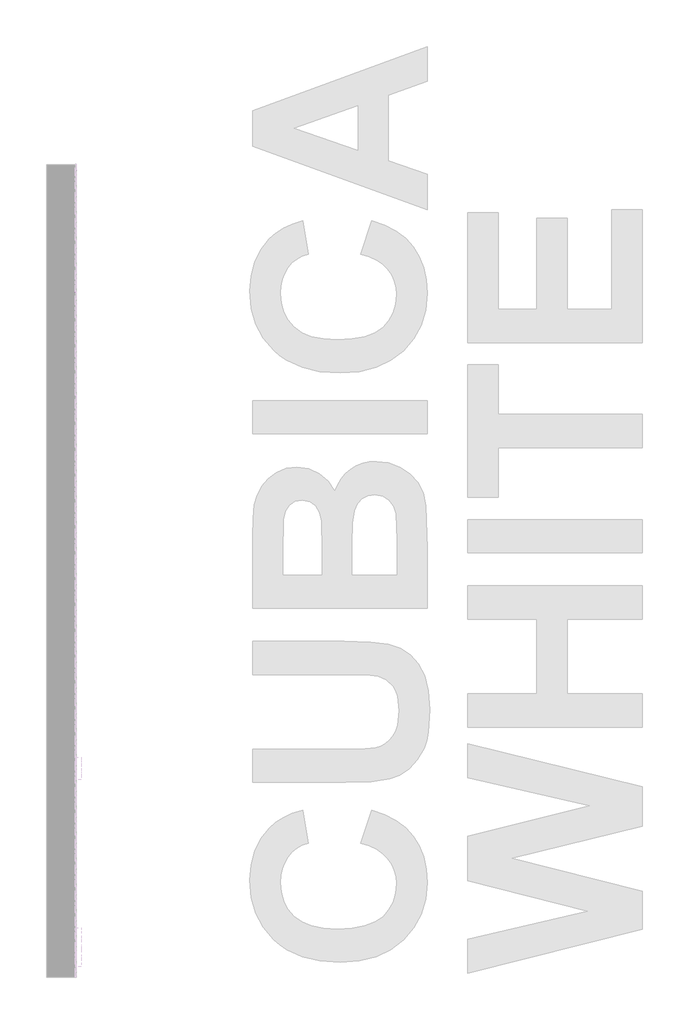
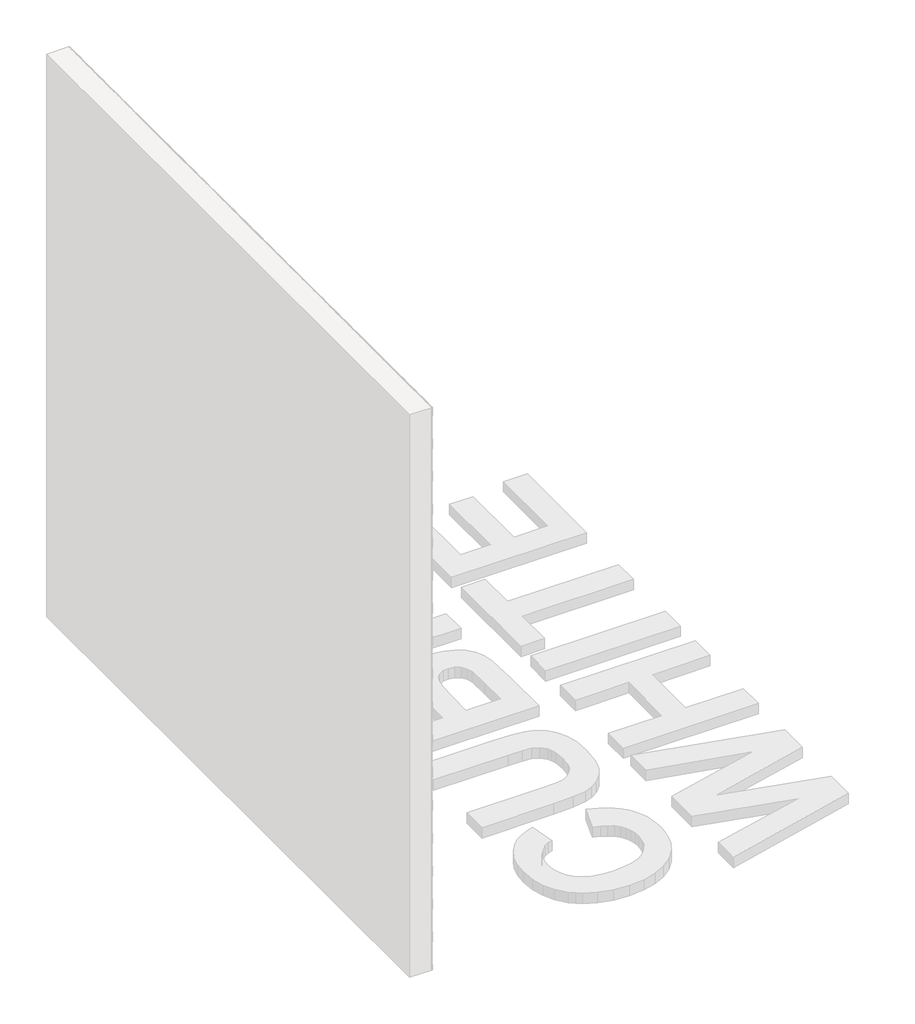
# One storey, part 119 of 121: 144 proxies.
"""IFC4 building model written with IfcOpenShell, lengths in millimetres."""

from ifc_helpers import new_model, si_unit, origin, place, context, project, spatial, transform, mapped, element, save
from components import generic_models_b2b2c5c1, generic_models_9bf73f6f, generic_models_5d175859, generic_models_0bb79e7c

model = new_model("IFC4")

# Units and contexts
model_context = context("Model", 3, world=origin())
ifc_project = project(units=[si_unit("LENGTHUNIT", "METRE", prefix="MILLI")], contexts=[model_context])

# Site, building, storey
site = spatial("IfcSite", under=ifc_project)
building = spatial("IfcBuilding", under=site)
storey = spatial("IfcBuildingStorey", under=building, Name="PORTOBELLO - SHOWROOM", Elevation=0.0)

# Proxies
placement = place(None, origin())
generic_models_shape = generic_models_b2b2c5c1(model_context)
element("IfcBuildingElementProxy", 1, Name="PBSHOP - CUBICA WHITE 4,8X8,3 : CUBICA WHITE - POSIÇÃO 01", ObjectType="PBSHOP - CUBICA WHITE 4,8X8,3 : CUBICA WHITE - POSIÇÃO 01", at=placement, inside=storey, context=model_context, shape_type="MappedRepresentation", body=[
    mapped(generic_models_shape, transform((150369.5341846, 21422.109842, 2012.7881262), x_axis=(0.0, 1.0, 0.0), y_axis=(0.0, 0.0, 1.0), z_axis=(1.0, 0.0, 0.0))),
])
element("IfcBuildingElementProxy", 2, Name="PBSHOP - CUBICA WHITE 4,8X8,3 : CUBICA WHITE - POSIÇÃO 01", ObjectType="PBSHOP - CUBICA WHITE 4,8X8,3 : CUBICA WHITE - POSIÇÃO 01", at=placement, inside=storey, context=model_context, shape_type="MappedRepresentation", body=[
    mapped(generic_models_shape, transform((150369.5341846, 21512.9491113, 2012.7881262), x_axis=(0.0, 1.0, 0.0), y_axis=(0.0, 0.0, 1.0), z_axis=(1.0, 0.0, 0.0))),
])
element("IfcBuildingElementProxy", 3, Name="PBSHOP - CUBICA WHITE 4,8X8,3 : CUBICA WHITE - POSIÇÃO 01", ObjectType="PBSHOP - CUBICA WHITE 4,8X8,3 : CUBICA WHITE - POSIÇÃO 01", at=placement, inside=storey, context=model_context, shape_type="MappedRepresentation", body=[
    mapped(generic_models_shape, transform((150369.5341846, 21603.7883805, 2012.7881262), x_axis=(0.0, 1.0, 0.0), y_axis=(0.0, 0.0, 1.0), z_axis=(1.0, 0.0, 0.0))),
])
element("IfcBuildingElementProxy", 4, Name="PBSHOP - CUBICA WHITE 4,8X8,3 : CUBICA WHITE - POSIÇÃO 01", ObjectType="PBSHOP - CUBICA WHITE 4,8X8,3 : CUBICA WHITE - POSIÇÃO 01", at=placement, inside=storey, context=model_context, shape_type="MappedRepresentation", body=[
    mapped(generic_models_shape, transform((150369.5341846, 21694.6276498, 2012.7881262), x_axis=(0.0, 1.0, 0.0), y_axis=(0.0, 0.0, 1.0), z_axis=(1.0, 0.0, 0.0))),
])
element("IfcBuildingElementProxy", 5, Name="PBSHOP - CUBICA WHITE 4,8X8,3 : CUBICA WHITE - POSIÇÃO 01", ObjectType="PBSHOP - CUBICA WHITE 4,8X8,3 : CUBICA WHITE - POSIÇÃO 01", at=placement, inside=storey, context=model_context, shape_type="MappedRepresentation", body=[
    mapped(generic_models_shape, transform((150369.5341846, 21785.466919, 2012.7881262), x_axis=(0.0, 1.0, 0.0), y_axis=(0.0, 0.0, 1.0), z_axis=(1.0, 0.0, 0.0))),
])
element("IfcBuildingElementProxy", 6, Name="PBSHOP - CUBICA WHITE 4,8X8,3 : CUBICA WHITE - POSIÇÃO 01", ObjectType="PBSHOP - CUBICA WHITE 4,8X8,3 : CUBICA WHITE - POSIÇÃO 01", at=placement, inside=storey, context=model_context, shape_type="MappedRepresentation", body=[
    mapped(generic_models_shape, transform((150369.5341846, 21876.3061883, 2012.7881262), x_axis=(0.0, 1.0, 0.0), y_axis=(0.0, 0.0, 1.0), z_axis=(1.0, 0.0, 0.0))),
])
element("IfcBuildingElementProxy", 7, Name="PBSHOP - CUBICA WHITE 4,8X8,3 : CUBICA WHITE - POSIÇÃO 01", ObjectType="PBSHOP - CUBICA WHITE 4,8X8,3 : CUBICA WHITE - POSIÇÃO 01", at=placement, inside=storey, context=model_context, shape_type="MappedRepresentation", body=[
    mapped(generic_models_shape, transform((150369.5341846, 21967.1454575, 2012.7881262), x_axis=(0.0, 1.0, 0.0), y_axis=(0.0, 0.0, 1.0), z_axis=(1.0, 0.0, 0.0))),
])
element("IfcBuildingElementProxy", 8, Name="PBSHOP - CUBICA WHITE 4,8X8,3 : CUBICA WHITE - POSIÇÃO 01", ObjectType="PBSHOP - CUBICA WHITE 4,8X8,3 : CUBICA WHITE - POSIÇÃO 01", at=placement, inside=storey, context=model_context, shape_type="MappedRepresentation", body=[
    mapped(generic_models_shape, transform((150369.5341846, 21013.3331304, 2091.7227645), x_axis=(0.0, 1.0, 0.0), y_axis=(0.0, 0.0, 1.0), z_axis=(1.0, 0.0, 0.0))),
])
element("IfcBuildingElementProxy", 9, Name="PBSHOP - CUBICA WHITE 4,8X8,3 : CUBICA WHITE - POSIÇÃO 01", ObjectType="PBSHOP - CUBICA WHITE 4,8X8,3 : CUBICA WHITE - POSIÇÃO 01", at=placement, inside=storey, context=model_context, shape_type="MappedRepresentation", body=[
    mapped(generic_models_shape, transform((150369.5341846, 21104.1723997, 2091.7227645), x_axis=(0.0, 1.0, 0.0), y_axis=(0.0, 0.0, 1.0), z_axis=(1.0, 0.0, 0.0))),
])
element("IfcBuildingElementProxy", 10, Name="PBSHOP - CUBICA WHITE 4,8X8,3 : CUBICA WHITE - POSIÇÃO 01", ObjectType="PBSHOP - CUBICA WHITE 4,8X8,3 : CUBICA WHITE - POSIÇÃO 01", at=placement, inside=storey, context=model_context, shape_type="MappedRepresentation", body=[
    mapped(generic_models_shape, transform((150369.5341846, 21195.0116689, 2091.7227645), x_axis=(0.0, 1.0, 0.0), y_axis=(0.0, 0.0, 1.0), z_axis=(1.0, 0.0, 0.0))),
])
element("IfcBuildingElementProxy", 11, Name="PBSHOP - CUBICA WHITE 4,8X8,3 : CUBICA WHITE - POSIÇÃO 01", ObjectType="PBSHOP - CUBICA WHITE 4,8X8,3 : CUBICA WHITE - POSIÇÃO 01", at=placement, inside=storey, context=model_context, shape_type="MappedRepresentation", body=[
    mapped(generic_models_shape, transform((150369.5341846, 21285.8509382, 2091.7227645), x_axis=(0.0, 1.0, 0.0), y_axis=(0.0, 0.0, 1.0), z_axis=(1.0, 0.0, 0.0))),
])
element("IfcBuildingElementProxy", 12, Name="PBSHOP - CUBICA WHITE 4,8X8,3 : CUBICA WHITE - POSIÇÃO 01", ObjectType="PBSHOP - CUBICA WHITE 4,8X8,3 : CUBICA WHITE - POSIÇÃO 01", at=placement, inside=storey, context=model_context, shape_type="MappedRepresentation", body=[
    mapped(generic_models_shape, transform((150369.5341846, 21376.6902074, 2091.7227645), x_axis=(0.0, 1.0, 0.0), y_axis=(0.0, 0.0, 1.0), z_axis=(1.0, 0.0, 0.0))),
])
element("IfcBuildingElementProxy", 13, Name="PBSHOP - CUBICA WHITE 4,8X8,3 : CUBICA WHITE - POSIÇÃO 01", ObjectType="PBSHOP - CUBICA WHITE 4,8X8,3 : CUBICA WHITE - POSIÇÃO 01", at=placement, inside=storey, context=model_context, shape_type="MappedRepresentation", body=[
    mapped(generic_models_shape, transform((150369.5341846, 21467.5294767, 2091.7227645), x_axis=(0.0, 1.0, 0.0), y_axis=(0.0, 0.0, 1.0), z_axis=(1.0, 0.0, 0.0))),
])
element("IfcBuildingElementProxy", 14, Name="PBSHOP - CUBICA WHITE 4,8X8,3 : CUBICA WHITE - POSIÇÃO 01", ObjectType="PBSHOP - CUBICA WHITE 4,8X8,3 : CUBICA WHITE - POSIÇÃO 01", at=placement, inside=storey, context=model_context, shape_type="MappedRepresentation", body=[
    mapped(generic_models_shape, transform((150369.5341846, 21558.3687459, 2091.7227645), x_axis=(0.0, 1.0, 0.0), y_axis=(0.0, 0.0, 1.0), z_axis=(1.0, 0.0, 0.0))),
])
element("IfcBuildingElementProxy", 15, Name="PBSHOP - CUBICA WHITE 4,8X8,3 : CUBICA WHITE - POSIÇÃO 01", ObjectType="PBSHOP - CUBICA WHITE 4,8X8,3 : CUBICA WHITE - POSIÇÃO 01", at=placement, inside=storey, context=model_context, shape_type="MappedRepresentation", body=[
    mapped(generic_models_shape, transform((150369.5341846, 21649.2080152, 2091.7227645), x_axis=(0.0, 1.0, 0.0), y_axis=(0.0, 0.0, 1.0), z_axis=(1.0, 0.0, 0.0))),
])
element("IfcBuildingElementProxy", 16, Name="PBSHOP - CUBICA WHITE 4,8X8,3 : CUBICA WHITE - POSIÇÃO 01", ObjectType="PBSHOP - CUBICA WHITE 4,8X8,3 : CUBICA WHITE - POSIÇÃO 01", at=placement, inside=storey, context=model_context, shape_type="MappedRepresentation", body=[
    mapped(generic_models_shape, transform((150369.5341846, 21740.0472844, 2091.7227645), x_axis=(0.0, 1.0, 0.0), y_axis=(0.0, 0.0, 1.0), z_axis=(1.0, 0.0, 0.0))),
])
element("IfcBuildingElementProxy", 17, Name="PBSHOP - CUBICA WHITE 4,8X8,3 : CUBICA WHITE - POSIÇÃO 01", ObjectType="PBSHOP - CUBICA WHITE 4,8X8,3 : CUBICA WHITE - POSIÇÃO 01", at=placement, inside=storey, context=model_context, shape_type="MappedRepresentation", body=[
    mapped(generic_models_shape, transform((150369.5341846, 21830.8865536, 2091.7227645), x_axis=(0.0, 1.0, 0.0), y_axis=(0.0, 0.0, 1.0), z_axis=(1.0, 0.0, 0.0))),
])
element("IfcBuildingElementProxy", 18, Name="PBSHOP - CUBICA WHITE 4,8X8,3 : CUBICA WHITE - POSIÇÃO 01", ObjectType="PBSHOP - CUBICA WHITE 4,8X8,3 : CUBICA WHITE - POSIÇÃO 01", at=placement, inside=storey, context=model_context, shape_type="MappedRepresentation", body=[
    mapped(generic_models_shape, transform((150369.5341846, 21921.7258229, 2091.7227645), x_axis=(0.0, 1.0, 0.0), y_axis=(0.0, 0.0, 1.0), z_axis=(1.0, 0.0, 0.0))),
])
element("IfcBuildingElementProxy", 19, Name="PBSHOP - CUBICA WHITE 4,8X8,3 : CUBICA WHITE - POSIÇÃO 01", ObjectType="PBSHOP - CUBICA WHITE 4,8X8,3 : CUBICA WHITE - POSIÇÃO 01", at=placement, inside=storey, context=model_context, shape_type="MappedRepresentation", body=[
    mapped(generic_models_shape, transform((150369.5341846, 21058.7527651, 2170.6574029), x_axis=(0.0, 1.0, 0.0), y_axis=(0.0, 0.0, 1.0), z_axis=(1.0, 0.0, 0.0))),
])
element("IfcBuildingElementProxy", 20, Name="PBSHOP - CUBICA WHITE 4,8X8,3 : CUBICA WHITE - POSIÇÃO 01", ObjectType="PBSHOP - CUBICA WHITE 4,8X8,3 : CUBICA WHITE - POSIÇÃO 01", at=placement, inside=storey, context=model_context, shape_type="MappedRepresentation", body=[
    mapped(generic_models_shape, transform((150369.5341846, 21149.5920343, 2170.6574029), x_axis=(0.0, 1.0, 0.0), y_axis=(0.0, 0.0, 1.0), z_axis=(1.0, 0.0, 0.0))),
])
element("IfcBuildingElementProxy", 21, Name="PBSHOP - CUBICA WHITE 4,8X8,3 : CUBICA WHITE - POSIÇÃO 01", ObjectType="PBSHOP - CUBICA WHITE 4,8X8,3 : CUBICA WHITE - POSIÇÃO 01", at=placement, inside=storey, context=model_context, shape_type="MappedRepresentation", body=[
    mapped(generic_models_shape, transform((150369.5341846, 21240.4313036, 2170.6574029), x_axis=(0.0, 1.0, 0.0), y_axis=(0.0, 0.0, 1.0), z_axis=(1.0, 0.0, 0.0))),
])
element("IfcBuildingElementProxy", 22, Name="PBSHOP - CUBICA WHITE 4,8X8,3 : CUBICA WHITE - POSIÇÃO 01", ObjectType="PBSHOP - CUBICA WHITE 4,8X8,3 : CUBICA WHITE - POSIÇÃO 01", at=placement, inside=storey, context=model_context, shape_type="MappedRepresentation", body=[
    mapped(generic_models_shape, transform((150369.5341846, 21331.2705728, 2170.6574029), x_axis=(0.0, 1.0, 0.0), y_axis=(0.0, 0.0, 1.0), z_axis=(1.0, 0.0, 0.0))),
])
element("IfcBuildingElementProxy", 23, Name="PBSHOP - CUBICA WHITE 4,8X8,3 : CUBICA WHITE - POSIÇÃO 01", ObjectType="PBSHOP - CUBICA WHITE 4,8X8,3 : CUBICA WHITE - POSIÇÃO 01", at=placement, inside=storey, context=model_context, shape_type="MappedRepresentation", body=[
    mapped(generic_models_shape, transform((150369.5341846, 21422.109842, 2170.6574029), x_axis=(0.0, 1.0, 0.0), y_axis=(0.0, 0.0, 1.0), z_axis=(1.0, 0.0, 0.0))),
])
element("IfcBuildingElementProxy", 24, Name="PBSHOP - CUBICA WHITE 4,8X8,3 : CUBICA WHITE - POSIÇÃO 01", ObjectType="PBSHOP - CUBICA WHITE 4,8X8,3 : CUBICA WHITE - POSIÇÃO 01", at=placement, inside=storey, context=model_context, shape_type="MappedRepresentation", body=[
    mapped(generic_models_shape, transform((150369.5341846, 21512.9491113, 2170.6574029), x_axis=(0.0, 1.0, 0.0), y_axis=(0.0, 0.0, 1.0), z_axis=(1.0, 0.0, 0.0))),
])
element("IfcBuildingElementProxy", 25, Name="PBSHOP - CUBICA WHITE 4,8X8,3 : CUBICA WHITE - POSIÇÃO 01", ObjectType="PBSHOP - CUBICA WHITE 4,8X8,3 : CUBICA WHITE - POSIÇÃO 01", at=placement, inside=storey, context=model_context, shape_type="MappedRepresentation", body=[
    mapped(generic_models_shape, transform((150369.5341846, 21603.7883805, 2170.6574029), x_axis=(0.0, 1.0, 0.0), y_axis=(0.0, 0.0, 1.0), z_axis=(1.0, 0.0, 0.0))),
])
element("IfcBuildingElementProxy", 26, Name="PBSHOP - CUBICA WHITE 4,8X8,3 : CUBICA WHITE - POSIÇÃO 01", ObjectType="PBSHOP - CUBICA WHITE 4,8X8,3 : CUBICA WHITE - POSIÇÃO 01", at=placement, inside=storey, context=model_context, shape_type="MappedRepresentation", body=[
    mapped(generic_models_shape, transform((150369.5341846, 21694.6276498, 2170.6574029), x_axis=(0.0, 1.0, 0.0), y_axis=(0.0, 0.0, 1.0), z_axis=(1.0, 0.0, 0.0))),
])
element("IfcBuildingElementProxy", 27, Name="PBSHOP - CUBICA WHITE 4,8X8,3 : CUBICA WHITE - POSIÇÃO 01", ObjectType="PBSHOP - CUBICA WHITE 4,8X8,3 : CUBICA WHITE - POSIÇÃO 01", at=placement, inside=storey, context=model_context, shape_type="MappedRepresentation", body=[
    mapped(generic_models_shape, transform((150369.5341846, 21785.466919, 2170.6574029), x_axis=(0.0, 1.0, 0.0), y_axis=(0.0, 0.0, 1.0), z_axis=(1.0, 0.0, 0.0))),
])
element("IfcBuildingElementProxy", 28, Name="PBSHOP - CUBICA WHITE 4,8X8,3 : CUBICA WHITE - POSIÇÃO 01", ObjectType="PBSHOP - CUBICA WHITE 4,8X8,3 : CUBICA WHITE - POSIÇÃO 01", at=placement, inside=storey, context=model_context, shape_type="MappedRepresentation", body=[
    mapped(generic_models_shape, transform((150369.5341846, 21876.3061883, 2170.6574029), x_axis=(0.0, 1.0, 0.0), y_axis=(0.0, 0.0, 1.0), z_axis=(1.0, 0.0, 0.0))),
])
element("IfcBuildingElementProxy", 29, Name="PBSHOP - CUBICA WHITE 4,8X8,3 : CUBICA WHITE - POSIÇÃO 01", ObjectType="PBSHOP - CUBICA WHITE 4,8X8,3 : CUBICA WHITE - POSIÇÃO 01", at=placement, inside=storey, context=model_context, shape_type="MappedRepresentation", body=[
    mapped(generic_models_shape, transform((150369.5341846, 21967.1454575, 2170.6574029), x_axis=(0.0, 1.0, 0.0), y_axis=(0.0, 0.0, 1.0), z_axis=(1.0, 0.0, 0.0))),
])
element("IfcBuildingElementProxy", 30, Name="PBSHOP - CUBICA WHITE 4,8X8,3 : CUBICA WHITE - POSIÇÃO 01", ObjectType="PBSHOP - CUBICA WHITE 4,8X8,3 : CUBICA WHITE - POSIÇÃO 01", at=placement, inside=storey, context=model_context, shape_type="MappedRepresentation", body=[
    mapped(generic_models_shape, transform((150369.5341846, 21013.3331304, 2249.5920413), x_axis=(0.0, 1.0, 0.0), y_axis=(0.0, 0.0, 1.0), z_axis=(1.0, 0.0, 0.0))),
])
element("IfcBuildingElementProxy", 31, Name="PBSHOP - CUBICA WHITE 4,8X8,3 : CUBICA WHITE - POSIÇÃO 01", ObjectType="PBSHOP - CUBICA WHITE 4,8X8,3 : CUBICA WHITE - POSIÇÃO 01", at=placement, inside=storey, context=model_context, shape_type="MappedRepresentation", body=[
    mapped(generic_models_shape, transform((150369.5341846, 21104.1723997, 2249.5920413), x_axis=(0.0, 1.0, 0.0), y_axis=(0.0, 0.0, 1.0), z_axis=(1.0, 0.0, 0.0))),
])
element("IfcBuildingElementProxy", 32, Name="PBSHOP - CUBICA WHITE 4,8X8,3 : CUBICA WHITE - POSIÇÃO 01", ObjectType="PBSHOP - CUBICA WHITE 4,8X8,3 : CUBICA WHITE - POSIÇÃO 01", at=placement, inside=storey, context=model_context, shape_type="MappedRepresentation", body=[
    mapped(generic_models_shape, transform((150369.5341846, 21195.0116689, 2249.5920413), x_axis=(0.0, 1.0, 0.0), y_axis=(0.0, 0.0, 1.0), z_axis=(1.0, 0.0, 0.0))),
])
element("IfcBuildingElementProxy", 33, Name="PBSHOP - CUBICA WHITE 4,8X8,3 : CUBICA WHITE - POSIÇÃO 01", ObjectType="PBSHOP - CUBICA WHITE 4,8X8,3 : CUBICA WHITE - POSIÇÃO 01", at=placement, inside=storey, context=model_context, shape_type="MappedRepresentation", body=[
    mapped(generic_models_shape, transform((150369.5341846, 21285.8509382, 2249.5920413), x_axis=(0.0, 1.0, 0.0), y_axis=(0.0, 0.0, 1.0), z_axis=(1.0, 0.0, 0.0))),
])
element("IfcBuildingElementProxy", 34, Name="PBSHOP - CUBICA WHITE 4,8X8,3 : CUBICA WHITE - POSIÇÃO 01", ObjectType="PBSHOP - CUBICA WHITE 4,8X8,3 : CUBICA WHITE - POSIÇÃO 01", at=placement, inside=storey, context=model_context, shape_type="MappedRepresentation", body=[
    mapped(generic_models_shape, transform((150369.5341846, 21376.6902074, 2249.5920413), x_axis=(0.0, 1.0, 0.0), y_axis=(0.0, 0.0, 1.0), z_axis=(1.0, 0.0, 0.0))),
])
element("IfcBuildingElementProxy", 35, Name="PBSHOP - CUBICA WHITE 4,8X8,3 : CUBICA WHITE - POSIÇÃO 01", ObjectType="PBSHOP - CUBICA WHITE 4,8X8,3 : CUBICA WHITE - POSIÇÃO 01", at=placement, inside=storey, context=model_context, shape_type="MappedRepresentation", body=[
    mapped(generic_models_shape, transform((150369.5341846, 21467.5294767, 2249.5920413), x_axis=(0.0, 1.0, 0.0), y_axis=(0.0, 0.0, 1.0), z_axis=(1.0, 0.0, 0.0))),
])
element("IfcBuildingElementProxy", 36, Name="PBSHOP - CUBICA WHITE 4,8X8,3 : CUBICA WHITE - POSIÇÃO 01", ObjectType="PBSHOP - CUBICA WHITE 4,8X8,3 : CUBICA WHITE - POSIÇÃO 01", at=placement, inside=storey, context=model_context, shape_type="MappedRepresentation", body=[
    mapped(generic_models_shape, transform((150369.5341846, 21558.3687459, 2249.5920413), x_axis=(0.0, 1.0, 0.0), y_axis=(0.0, 0.0, 1.0), z_axis=(1.0, 0.0, 0.0))),
])
element("IfcBuildingElementProxy", 37, Name="PBSHOP - CUBICA WHITE 4,8X8,3 : CUBICA WHITE - POSIÇÃO 01", ObjectType="PBSHOP - CUBICA WHITE 4,8X8,3 : CUBICA WHITE - POSIÇÃO 01", at=placement, inside=storey, context=model_context, shape_type="MappedRepresentation", body=[
    mapped(generic_models_shape, transform((150369.5341846, 21649.2080152, 2249.5920413), x_axis=(0.0, 1.0, 0.0), y_axis=(0.0, 0.0, 1.0), z_axis=(1.0, 0.0, 0.0))),
])
element("IfcBuildingElementProxy", 38, Name="PBSHOP - CUBICA WHITE 4,8X8,3 : CUBICA WHITE - POSIÇÃO 01", ObjectType="PBSHOP - CUBICA WHITE 4,8X8,3 : CUBICA WHITE - POSIÇÃO 01", at=placement, inside=storey, context=model_context, shape_type="MappedRepresentation", body=[
    mapped(generic_models_shape, transform((150369.5341846, 21740.0472844, 2249.5920413), x_axis=(0.0, 1.0, 0.0), y_axis=(0.0, 0.0, 1.0), z_axis=(1.0, 0.0, 0.0))),
])
element("IfcBuildingElementProxy", 39, Name="PBSHOP - CUBICA WHITE 4,8X8,3 : CUBICA WHITE - POSIÇÃO 01", ObjectType="PBSHOP - CUBICA WHITE 4,8X8,3 : CUBICA WHITE - POSIÇÃO 01", at=placement, inside=storey, context=model_context, shape_type="MappedRepresentation", body=[
    mapped(generic_models_shape, transform((150369.5341846, 21830.8865536, 2249.5920413), x_axis=(0.0, 1.0, 0.0), y_axis=(0.0, 0.0, 1.0), z_axis=(1.0, 0.0, 0.0))),
])
element("IfcBuildingElementProxy", 40, Name="PBSHOP - CUBICA WHITE 4,8X8,3 : CUBICA WHITE - POSIÇÃO 01", ObjectType="PBSHOP - CUBICA WHITE 4,8X8,3 : CUBICA WHITE - POSIÇÃO 01", at=placement, inside=storey, context=model_context, shape_type="MappedRepresentation", body=[
    mapped(generic_models_shape, transform((150369.5341846, 21921.7258229, 2249.5920413), x_axis=(0.0, 1.0, 0.0), y_axis=(0.0, 0.0, 1.0), z_axis=(1.0, 0.0, 0.0))),
])
element("IfcBuildingElementProxy", 41, Name="PBSHOP - CUBICA WHITE 4,8X8,3 : CUBICA WHITE - POSIÇÃO 01", ObjectType="PBSHOP - CUBICA WHITE 4,8X8,3 : CUBICA WHITE - POSIÇÃO 01", at=placement, inside=storey, context=model_context, shape_type="MappedRepresentation", body=[
    mapped(generic_models_shape, transform((150369.5341846, 21058.7527651, 2328.5266797), x_axis=(0.0, 1.0, 0.0), y_axis=(0.0, 0.0, 1.0), z_axis=(1.0, 0.0, 0.0))),
])
element("IfcBuildingElementProxy", 42, Name="PBSHOP - CUBICA WHITE 4,8X8,3 : CUBICA WHITE - POSIÇÃO 01", ObjectType="PBSHOP - CUBICA WHITE 4,8X8,3 : CUBICA WHITE - POSIÇÃO 01", at=placement, inside=storey, context=model_context, shape_type="MappedRepresentation", body=[
    mapped(generic_models_shape, transform((150369.5341846, 21149.5920343, 2328.5266797), x_axis=(0.0, 1.0, 0.0), y_axis=(0.0, 0.0, 1.0), z_axis=(1.0, 0.0, 0.0))),
])
element("IfcBuildingElementProxy", 43, Name="PBSHOP - CUBICA WHITE 4,8X8,3 : CUBICA WHITE - POSIÇÃO 01", ObjectType="PBSHOP - CUBICA WHITE 4,8X8,3 : CUBICA WHITE - POSIÇÃO 01", at=placement, inside=storey, context=model_context, shape_type="MappedRepresentation", body=[
    mapped(generic_models_shape, transform((150369.5341846, 21240.4313036, 2328.5266797), x_axis=(0.0, 1.0, 0.0), y_axis=(0.0, 0.0, 1.0), z_axis=(1.0, 0.0, 0.0))),
])
element("IfcBuildingElementProxy", 44, Name="PBSHOP - CUBICA WHITE 4,8X8,3 : CUBICA WHITE - POSIÇÃO 01", ObjectType="PBSHOP - CUBICA WHITE 4,8X8,3 : CUBICA WHITE - POSIÇÃO 01", at=placement, inside=storey, context=model_context, shape_type="MappedRepresentation", body=[
    mapped(generic_models_shape, transform((150369.5341846, 21331.2705728, 2328.5266797), x_axis=(0.0, 1.0, 0.0), y_axis=(0.0, 0.0, 1.0), z_axis=(1.0, 0.0, 0.0))),
])
element("IfcBuildingElementProxy", 45, Name="PBSHOP - CUBICA WHITE 4,8X8,3 : CUBICA WHITE - POSIÇÃO 01", ObjectType="PBSHOP - CUBICA WHITE 4,8X8,3 : CUBICA WHITE - POSIÇÃO 01", at=placement, inside=storey, context=model_context, shape_type="MappedRepresentation", body=[
    mapped(generic_models_shape, transform((150369.5341846, 21422.109842, 2328.5266797), x_axis=(0.0, 1.0, 0.0), y_axis=(0.0, 0.0, 1.0), z_axis=(1.0, 0.0, 0.0))),
])
element("IfcBuildingElementProxy", 46, Name="PBSHOP - CUBICA WHITE 4,8X8,3 : CUBICA WHITE - POSIÇÃO 01", ObjectType="PBSHOP - CUBICA WHITE 4,8X8,3 : CUBICA WHITE - POSIÇÃO 01", at=placement, inside=storey, context=model_context, shape_type="MappedRepresentation", body=[
    mapped(generic_models_shape, transform((150369.5341846, 21512.9491113, 2328.5266797), x_axis=(0.0, 1.0, 0.0), y_axis=(0.0, 0.0, 1.0), z_axis=(1.0, 0.0, 0.0))),
])
element("IfcBuildingElementProxy", 47, Name="PBSHOP - CUBICA WHITE 4,8X8,3 : CUBICA WHITE - POSIÇÃO 01", ObjectType="PBSHOP - CUBICA WHITE 4,8X8,3 : CUBICA WHITE - POSIÇÃO 01", at=placement, inside=storey, context=model_context, shape_type="MappedRepresentation", body=[
    mapped(generic_models_shape, transform((150369.5341846, 21603.7883805, 2328.5266797), x_axis=(0.0, 1.0, 0.0), y_axis=(0.0, 0.0, 1.0), z_axis=(1.0, 0.0, 0.0))),
])
element("IfcBuildingElementProxy", 48, Name="PBSHOP - CUBICA WHITE 4,8X8,3 : CUBICA WHITE - POSIÇÃO 01", ObjectType="PBSHOP - CUBICA WHITE 4,8X8,3 : CUBICA WHITE - POSIÇÃO 01", at=placement, inside=storey, context=model_context, shape_type="MappedRepresentation", body=[
    mapped(generic_models_shape, transform((150369.5341846, 21694.6276498, 2328.5266797), x_axis=(0.0, 1.0, 0.0), y_axis=(0.0, 0.0, 1.0), z_axis=(1.0, 0.0, 0.0))),
])
element("IfcBuildingElementProxy", 49, Name="PBSHOP - CUBICA WHITE 4,8X8,3 : CUBICA WHITE - POSIÇÃO 01", ObjectType="PBSHOP - CUBICA WHITE 4,8X8,3 : CUBICA WHITE - POSIÇÃO 01", at=placement, inside=storey, context=model_context, shape_type="MappedRepresentation", body=[
    mapped(generic_models_shape, transform((150369.5341846, 21785.466919, 2328.5266797), x_axis=(0.0, 1.0, 0.0), y_axis=(0.0, 0.0, 1.0), z_axis=(1.0, 0.0, 0.0))),
])
element("IfcBuildingElementProxy", 50, Name="PBSHOP - CUBICA WHITE 4,8X8,3 : CUBICA WHITE - POSIÇÃO 01", ObjectType="PBSHOP - CUBICA WHITE 4,8X8,3 : CUBICA WHITE - POSIÇÃO 01", at=placement, inside=storey, context=model_context, shape_type="MappedRepresentation", body=[
    mapped(generic_models_shape, transform((150369.5341846, 21876.3061883, 2328.5266797), x_axis=(0.0, 1.0, 0.0), y_axis=(0.0, 0.0, 1.0), z_axis=(1.0, 0.0, 0.0))),
])
generic_models_2_shape = generic_models_9bf73f6f(model_context)
element("IfcBuildingElementProxy", 51, Name="PBSHOP - CUBICA WHITE 4,8X8,3 : CUBICA WHITE - POSIÇÃO 03", ObjectType="PBSHOP - CUBICA WHITE 4,8X8,3 : CUBICA WHITE - POSIÇÃO 03", at=placement, inside=storey, context=model_context, shape_type="MappedRepresentation", body=[
    mapped(generic_models_2_shape, transform((150369.5341846, 21036.0451069, 1973.2795966), x_axis=(0.0, 1.0, 0.0), y_axis=(0.0, 0.0, 1.0), z_axis=(1.0, 0.0, 0.0))),
])
element("IfcBuildingElementProxy", 52, Name="PBSHOP - CUBICA WHITE 4,8X8,3 : CUBICA WHITE - POSIÇÃO 03", ObjectType="PBSHOP - CUBICA WHITE 4,8X8,3 : CUBICA WHITE - POSIÇÃO 03", at=placement, inside=storey, context=model_context, shape_type="MappedRepresentation", body=[
    mapped(generic_models_2_shape, transform((150369.5341846, 21126.8843762, 1973.2795966), x_axis=(0.0, 1.0, 0.0), y_axis=(0.0, 0.0, 1.0), z_axis=(1.0, 0.0, 0.0))),
])
element("IfcBuildingElementProxy", 53, Name="PBSHOP - CUBICA WHITE 4,8X8,3 : CUBICA WHITE - POSIÇÃO 03", ObjectType="PBSHOP - CUBICA WHITE 4,8X8,3 : CUBICA WHITE - POSIÇÃO 03", at=placement, inside=storey, context=model_context, shape_type="MappedRepresentation", body=[
    mapped(generic_models_2_shape, transform((150369.5341846, 21217.7236454, 1973.2795966), x_axis=(0.0, 1.0, 0.0), y_axis=(0.0, 0.0, 1.0), z_axis=(1.0, 0.0, 0.0))),
])
element("IfcBuildingElementProxy", 54, Name="PBSHOP - CUBICA WHITE 4,8X8,3 : CUBICA WHITE - POSIÇÃO 03", ObjectType="PBSHOP - CUBICA WHITE 4,8X8,3 : CUBICA WHITE - POSIÇÃO 03", at=placement, inside=storey, context=model_context, shape_type="MappedRepresentation", body=[
    mapped(generic_models_2_shape, transform((150369.5341846, 21308.5629147, 1973.2795966), x_axis=(0.0, 1.0, 0.0), y_axis=(0.0, 0.0, 1.0), z_axis=(1.0, 0.0, 0.0))),
])
element("IfcBuildingElementProxy", 55, Name="PBSHOP - CUBICA WHITE 4,8X8,3 : CUBICA WHITE - POSIÇÃO 03", ObjectType="PBSHOP - CUBICA WHITE 4,8X8,3 : CUBICA WHITE - POSIÇÃO 03", at=placement, inside=storey, context=model_context, shape_type="MappedRepresentation", body=[
    mapped(generic_models_2_shape, transform((150369.5341846, 21399.4021839, 1973.2795966), x_axis=(0.0, 1.0, 0.0), y_axis=(0.0, 0.0, 1.0), z_axis=(1.0, 0.0, 0.0))),
])
element("IfcBuildingElementProxy", 56, Name="PBSHOP - CUBICA WHITE 4,8X8,3 : CUBICA WHITE - POSIÇÃO 03", ObjectType="PBSHOP - CUBICA WHITE 4,8X8,3 : CUBICA WHITE - POSIÇÃO 03", at=placement, inside=storey, context=model_context, shape_type="MappedRepresentation", body=[
    mapped(generic_models_2_shape, transform((150369.5341846, 21490.2414531, 1973.2795966), x_axis=(0.0, 1.0, 0.0), y_axis=(0.0, 0.0, 1.0), z_axis=(1.0, 0.0, 0.0))),
])
element("IfcBuildingElementProxy", 57, Name="PBSHOP - CUBICA WHITE 4,8X8,3 : CUBICA WHITE - POSIÇÃO 03", ObjectType="PBSHOP - CUBICA WHITE 4,8X8,3 : CUBICA WHITE - POSIÇÃO 03", at=placement, inside=storey, context=model_context, shape_type="MappedRepresentation", body=[
    mapped(generic_models_2_shape, transform((150369.5341846, 21581.0807224, 1973.2795966), x_axis=(0.0, 1.0, 0.0), y_axis=(0.0, 0.0, 1.0), z_axis=(1.0, 0.0, 0.0))),
])
element("IfcBuildingElementProxy", 58, Name="PBSHOP - CUBICA WHITE 4,8X8,3 : CUBICA WHITE - POSIÇÃO 03", ObjectType="PBSHOP - CUBICA WHITE 4,8X8,3 : CUBICA WHITE - POSIÇÃO 03", at=placement, inside=storey, context=model_context, shape_type="MappedRepresentation", body=[
    mapped(generic_models_2_shape, transform((150369.5341846, 21671.9199916, 1973.2795966), x_axis=(0.0, 1.0, 0.0), y_axis=(0.0, 0.0, 1.0), z_axis=(1.0, 0.0, 0.0))),
])
element("IfcBuildingElementProxy", 59, Name="PBSHOP - CUBICA WHITE 4,8X8,3 : CUBICA WHITE - POSIÇÃO 03", ObjectType="PBSHOP - CUBICA WHITE 4,8X8,3 : CUBICA WHITE - POSIÇÃO 03", at=placement, inside=storey, context=model_context, shape_type="MappedRepresentation", body=[
    mapped(generic_models_2_shape, transform((150369.5341846, 21762.7592609, 1973.2795966), x_axis=(0.0, 1.0, 0.0), y_axis=(0.0, 0.0, 1.0), z_axis=(1.0, 0.0, 0.0))),
])
element("IfcBuildingElementProxy", 60, Name="PBSHOP - CUBICA WHITE 4,8X8,3 : CUBICA WHITE - POSIÇÃO 03", ObjectType="PBSHOP - CUBICA WHITE 4,8X8,3 : CUBICA WHITE - POSIÇÃO 03", at=placement, inside=storey, context=model_context, shape_type="MappedRepresentation", body=[
    mapped(generic_models_2_shape, transform((150369.5341846, 21853.5985301, 1973.2795966), x_axis=(0.0, 1.0, 0.0), y_axis=(0.0, 0.0, 1.0), z_axis=(1.0, 0.0, 0.0))),
])
element("IfcBuildingElementProxy", 61, Name="PBSHOP - CUBICA WHITE 4,8X8,3 : CUBICA WHITE - POSIÇÃO 03", ObjectType="PBSHOP - CUBICA WHITE 4,8X8,3 : CUBICA WHITE - POSIÇÃO 03", at=placement, inside=storey, context=model_context, shape_type="MappedRepresentation", body=[
    mapped(generic_models_2_shape, transform((150369.5341846, 21944.4377994, 1973.2795966), x_axis=(0.0, 1.0, 0.0), y_axis=(0.0, 0.0, 1.0), z_axis=(1.0, 0.0, 0.0))),
])
element("IfcBuildingElementProxy", 62, Name="PBSHOP - CUBICA WHITE 4,8X8,3 : CUBICA WHITE - POSIÇÃO 03", ObjectType="PBSHOP - CUBICA WHITE 4,8X8,3 : CUBICA WHITE - POSIÇÃO 03", at=placement, inside=storey, context=model_context, shape_type="MappedRepresentation", body=[
    mapped(generic_models_2_shape, transform((150369.5341846, 21081.4647415, 2052.2142349), x_axis=(0.0, 1.0, 0.0), y_axis=(0.0, 0.0, 1.0), z_axis=(1.0, 0.0, 0.0))),
])
element("IfcBuildingElementProxy", 63, Name="PBSHOP - CUBICA WHITE 4,8X8,3 : CUBICA WHITE - POSIÇÃO 03", ObjectType="PBSHOP - CUBICA WHITE 4,8X8,3 : CUBICA WHITE - POSIÇÃO 03", at=placement, inside=storey, context=model_context, shape_type="MappedRepresentation", body=[
    mapped(generic_models_2_shape, transform((150369.5341846, 21172.3040108, 2052.2142349), x_axis=(0.0, 1.0, 0.0), y_axis=(0.0, 0.0, 1.0), z_axis=(1.0, 0.0, 0.0))),
])
element("IfcBuildingElementProxy", 64, Name="PBSHOP - CUBICA WHITE 4,8X8,3 : CUBICA WHITE - POSIÇÃO 03", ObjectType="PBSHOP - CUBICA WHITE 4,8X8,3 : CUBICA WHITE - POSIÇÃO 03", at=placement, inside=storey, context=model_context, shape_type="MappedRepresentation", body=[
    mapped(generic_models_2_shape, transform((150369.5341846, 21263.14328, 2052.2142349), x_axis=(0.0, 1.0, 0.0), y_axis=(0.0, 0.0, 1.0), z_axis=(1.0, 0.0, 0.0))),
])
element("IfcBuildingElementProxy", 65, Name="PBSHOP - CUBICA WHITE 4,8X8,3 : CUBICA WHITE - POSIÇÃO 03", ObjectType="PBSHOP - CUBICA WHITE 4,8X8,3 : CUBICA WHITE - POSIÇÃO 03", at=placement, inside=storey, context=model_context, shape_type="MappedRepresentation", body=[
    mapped(generic_models_2_shape, transform((150369.5341846, 21353.9825493, 2052.2142349), x_axis=(0.0, 1.0, 0.0), y_axis=(0.0, 0.0, 1.0), z_axis=(1.0, 0.0, 0.0))),
])
element("IfcBuildingElementProxy", 66, Name="PBSHOP - CUBICA WHITE 4,8X8,3 : CUBICA WHITE - POSIÇÃO 03", ObjectType="PBSHOP - CUBICA WHITE 4,8X8,3 : CUBICA WHITE - POSIÇÃO 03", at=placement, inside=storey, context=model_context, shape_type="MappedRepresentation", body=[
    mapped(generic_models_2_shape, transform((150369.5341846, 21444.8218185, 2052.2142349), x_axis=(0.0, 1.0, 0.0), y_axis=(0.0, 0.0, 1.0), z_axis=(1.0, 0.0, 0.0))),
])
element("IfcBuildingElementProxy", 67, Name="PBSHOP - CUBICA WHITE 4,8X8,3 : CUBICA WHITE - POSIÇÃO 03", ObjectType="PBSHOP - CUBICA WHITE 4,8X8,3 : CUBICA WHITE - POSIÇÃO 03", at=placement, inside=storey, context=model_context, shape_type="MappedRepresentation", body=[
    mapped(generic_models_2_shape, transform((150369.5341846, 21535.6610878, 2052.2142349), x_axis=(0.0, 1.0, 0.0), y_axis=(0.0, 0.0, 1.0), z_axis=(1.0, 0.0, 0.0))),
])
element("IfcBuildingElementProxy", 68, Name="PBSHOP - CUBICA WHITE 4,8X8,3 : CUBICA WHITE - POSIÇÃO 03", ObjectType="PBSHOP - CUBICA WHITE 4,8X8,3 : CUBICA WHITE - POSIÇÃO 03", at=placement, inside=storey, context=model_context, shape_type="MappedRepresentation", body=[
    mapped(generic_models_2_shape, transform((150369.5341846, 21626.500357, 2052.2142349), x_axis=(0.0, 1.0, 0.0), y_axis=(0.0, 0.0, 1.0), z_axis=(1.0, 0.0, 0.0))),
])
element("IfcBuildingElementProxy", 69, Name="PBSHOP - CUBICA WHITE 4,8X8,3 : CUBICA WHITE - POSIÇÃO 03", ObjectType="PBSHOP - CUBICA WHITE 4,8X8,3 : CUBICA WHITE - POSIÇÃO 03", at=placement, inside=storey, context=model_context, shape_type="MappedRepresentation", body=[
    mapped(generic_models_2_shape, transform((150369.5341846, 21717.3396263, 2052.2142349), x_axis=(0.0, 1.0, 0.0), y_axis=(0.0, 0.0, 1.0), z_axis=(1.0, 0.0, 0.0))),
])
element("IfcBuildingElementProxy", 70, Name="PBSHOP - CUBICA WHITE 4,8X8,3 : CUBICA WHITE - POSIÇÃO 03", ObjectType="PBSHOP - CUBICA WHITE 4,8X8,3 : CUBICA WHITE - POSIÇÃO 03", at=placement, inside=storey, context=model_context, shape_type="MappedRepresentation", body=[
    mapped(generic_models_2_shape, transform((150369.5341846, 21808.1788955, 2052.2142349), x_axis=(0.0, 1.0, 0.0), y_axis=(0.0, 0.0, 1.0), z_axis=(1.0, 0.0, 0.0))),
])
element("IfcBuildingElementProxy", 71, Name="PBSHOP - CUBICA WHITE 4,8X8,3 : CUBICA WHITE - POSIÇÃO 03", ObjectType="PBSHOP - CUBICA WHITE 4,8X8,3 : CUBICA WHITE - POSIÇÃO 03", at=placement, inside=storey, context=model_context, shape_type="MappedRepresentation", body=[
    mapped(generic_models_2_shape, transform((150369.5341846, 21899.0181647, 2052.2142349), x_axis=(0.0, 1.0, 0.0), y_axis=(0.0, 0.0, 1.0), z_axis=(1.0, 0.0, 0.0))),
])
element("IfcBuildingElementProxy", 72, Name="PBSHOP - CUBICA WHITE 4,8X8,3 : CUBICA WHITE - POSIÇÃO 03", ObjectType="PBSHOP - CUBICA WHITE 4,8X8,3 : CUBICA WHITE - POSIÇÃO 03", at=placement, inside=storey, context=model_context, shape_type="MappedRepresentation", body=[
    mapped(generic_models_2_shape, transform((150369.5341846, 21036.0451069, 2131.1488733), x_axis=(0.0, 1.0, 0.0), y_axis=(0.0, 0.0, 1.0), z_axis=(1.0, 0.0, 0.0))),
])
element("IfcBuildingElementProxy", 73, Name="PBSHOP - CUBICA WHITE 4,8X8,3 : CUBICA WHITE - POSIÇÃO 03", ObjectType="PBSHOP - CUBICA WHITE 4,8X8,3 : CUBICA WHITE - POSIÇÃO 03", at=placement, inside=storey, context=model_context, shape_type="MappedRepresentation", body=[
    mapped(generic_models_2_shape, transform((150369.5341846, 21126.8843762, 2131.1488733), x_axis=(0.0, 1.0, 0.0), y_axis=(0.0, 0.0, 1.0), z_axis=(1.0, 0.0, 0.0))),
])
element("IfcBuildingElementProxy", 74, Name="PBSHOP - CUBICA WHITE 4,8X8,3 : CUBICA WHITE - POSIÇÃO 03", ObjectType="PBSHOP - CUBICA WHITE 4,8X8,3 : CUBICA WHITE - POSIÇÃO 03", at=placement, inside=storey, context=model_context, shape_type="MappedRepresentation", body=[
    mapped(generic_models_2_shape, transform((150369.5341846, 21217.7236454, 2131.1488733), x_axis=(0.0, 1.0, 0.0), y_axis=(0.0, 0.0, 1.0), z_axis=(1.0, 0.0, 0.0))),
])
element("IfcBuildingElementProxy", 75, Name="PBSHOP - CUBICA WHITE 4,8X8,3 : CUBICA WHITE - POSIÇÃO 03", ObjectType="PBSHOP - CUBICA WHITE 4,8X8,3 : CUBICA WHITE - POSIÇÃO 03", at=placement, inside=storey, context=model_context, shape_type="MappedRepresentation", body=[
    mapped(generic_models_2_shape, transform((150369.5341846, 21308.5629147, 2131.1488733), x_axis=(0.0, 1.0, 0.0), y_axis=(0.0, 0.0, 1.0), z_axis=(1.0, 0.0, 0.0))),
])
element("IfcBuildingElementProxy", 76, Name="PBSHOP - CUBICA WHITE 4,8X8,3 : CUBICA WHITE - POSIÇÃO 03", ObjectType="PBSHOP - CUBICA WHITE 4,8X8,3 : CUBICA WHITE - POSIÇÃO 03", at=placement, inside=storey, context=model_context, shape_type="MappedRepresentation", body=[
    mapped(generic_models_2_shape, transform((150369.5341846, 21399.4021839, 2131.1488733), x_axis=(0.0, 1.0, 0.0), y_axis=(0.0, 0.0, 1.0), z_axis=(1.0, 0.0, 0.0))),
])
element("IfcBuildingElementProxy", 77, Name="PBSHOP - CUBICA WHITE 4,8X8,3 : CUBICA WHITE - POSIÇÃO 03", ObjectType="PBSHOP - CUBICA WHITE 4,8X8,3 : CUBICA WHITE - POSIÇÃO 03", at=placement, inside=storey, context=model_context, shape_type="MappedRepresentation", body=[
    mapped(generic_models_2_shape, transform((150369.5341846, 21490.2414531, 2131.1488733), x_axis=(0.0, 1.0, 0.0), y_axis=(0.0, 0.0, 1.0), z_axis=(1.0, 0.0, 0.0))),
])
element("IfcBuildingElementProxy", 78, Name="PBSHOP - CUBICA WHITE 4,8X8,3 : CUBICA WHITE - POSIÇÃO 03", ObjectType="PBSHOP - CUBICA WHITE 4,8X8,3 : CUBICA WHITE - POSIÇÃO 03", at=placement, inside=storey, context=model_context, shape_type="MappedRepresentation", body=[
    mapped(generic_models_2_shape, transform((150369.5341846, 21581.0807224, 2131.1488733), x_axis=(0.0, 1.0, 0.0), y_axis=(0.0, 0.0, 1.0), z_axis=(1.0, 0.0, 0.0))),
])
element("IfcBuildingElementProxy", 79, Name="PBSHOP - CUBICA WHITE 4,8X8,3 : CUBICA WHITE - POSIÇÃO 03", ObjectType="PBSHOP - CUBICA WHITE 4,8X8,3 : CUBICA WHITE - POSIÇÃO 03", at=placement, inside=storey, context=model_context, shape_type="MappedRepresentation", body=[
    mapped(generic_models_2_shape, transform((150369.5341846, 21671.9199916, 2131.1488733), x_axis=(0.0, 1.0, 0.0), y_axis=(0.0, 0.0, 1.0), z_axis=(1.0, 0.0, 0.0))),
])
element("IfcBuildingElementProxy", 80, Name="PBSHOP - CUBICA WHITE 4,8X8,3 : CUBICA WHITE - POSIÇÃO 03", ObjectType="PBSHOP - CUBICA WHITE 4,8X8,3 : CUBICA WHITE - POSIÇÃO 03", at=placement, inside=storey, context=model_context, shape_type="MappedRepresentation", body=[
    mapped(generic_models_2_shape, transform((150369.5341846, 21762.7592609, 2131.1488733), x_axis=(0.0, 1.0, 0.0), y_axis=(0.0, 0.0, 1.0), z_axis=(1.0, 0.0, 0.0))),
])
element("IfcBuildingElementProxy", 81, Name="PBSHOP - CUBICA WHITE 4,8X8,3 : CUBICA WHITE - POSIÇÃO 03", ObjectType="PBSHOP - CUBICA WHITE 4,8X8,3 : CUBICA WHITE - POSIÇÃO 03", at=placement, inside=storey, context=model_context, shape_type="MappedRepresentation", body=[
    mapped(generic_models_2_shape, transform((150369.5341846, 21853.5985301, 2131.1488733), x_axis=(0.0, 1.0, 0.0), y_axis=(0.0, 0.0, 1.0), z_axis=(1.0, 0.0, 0.0))),
])
element("IfcBuildingElementProxy", 82, Name="PBSHOP - CUBICA WHITE 4,8X8,3 : CUBICA WHITE - POSIÇÃO 03", ObjectType="PBSHOP - CUBICA WHITE 4,8X8,3 : CUBICA WHITE - POSIÇÃO 03", at=placement, inside=storey, context=model_context, shape_type="MappedRepresentation", body=[
    mapped(generic_models_2_shape, transform((150369.5341846, 21944.4377994, 2131.1488733), x_axis=(0.0, 1.0, 0.0), y_axis=(0.0, 0.0, 1.0), z_axis=(1.0, 0.0, 0.0))),
])
element("IfcBuildingElementProxy", 83, Name="PBSHOP - CUBICA WHITE 4,8X8,3 : CUBICA WHITE - POSIÇÃO 03", ObjectType="PBSHOP - CUBICA WHITE 4,8X8,3 : CUBICA WHITE - POSIÇÃO 03", at=placement, inside=storey, context=model_context, shape_type="MappedRepresentation", body=[
    mapped(generic_models_2_shape, transform((150369.5341846, 21081.4647415, 2210.0835117), x_axis=(0.0, 1.0, 0.0), y_axis=(0.0, 0.0, 1.0), z_axis=(1.0, 0.0, 0.0))),
])
element("IfcBuildingElementProxy", 84, Name="PBSHOP - CUBICA WHITE 4,8X8,3 : CUBICA WHITE - POSIÇÃO 03", ObjectType="PBSHOP - CUBICA WHITE 4,8X8,3 : CUBICA WHITE - POSIÇÃO 03", at=placement, inside=storey, context=model_context, shape_type="MappedRepresentation", body=[
    mapped(generic_models_2_shape, transform((150369.5341846, 21172.3040108, 2210.0835117), x_axis=(0.0, 1.0, 0.0), y_axis=(0.0, 0.0, 1.0), z_axis=(1.0, 0.0, 0.0))),
])
element("IfcBuildingElementProxy", 85, Name="PBSHOP - CUBICA WHITE 4,8X8,3 : CUBICA WHITE - POSIÇÃO 03", ObjectType="PBSHOP - CUBICA WHITE 4,8X8,3 : CUBICA WHITE - POSIÇÃO 03", at=placement, inside=storey, context=model_context, shape_type="MappedRepresentation", body=[
    mapped(generic_models_2_shape, transform((150369.5341846, 21263.14328, 2210.0835117), x_axis=(0.0, 1.0, 0.0), y_axis=(0.0, 0.0, 1.0), z_axis=(1.0, 0.0, 0.0))),
])
element("IfcBuildingElementProxy", 86, Name="PBSHOP - CUBICA WHITE 4,8X8,3 : CUBICA WHITE - POSIÇÃO 03", ObjectType="PBSHOP - CUBICA WHITE 4,8X8,3 : CUBICA WHITE - POSIÇÃO 03", at=placement, inside=storey, context=model_context, shape_type="MappedRepresentation", body=[
    mapped(generic_models_2_shape, transform((150369.5341846, 21353.9825493, 2210.0835117), x_axis=(0.0, 1.0, 0.0), y_axis=(0.0, 0.0, 1.0), z_axis=(1.0, 0.0, 0.0))),
])
element("IfcBuildingElementProxy", 87, Name="PBSHOP - CUBICA WHITE 4,8X8,3 : CUBICA WHITE - POSIÇÃO 03", ObjectType="PBSHOP - CUBICA WHITE 4,8X8,3 : CUBICA WHITE - POSIÇÃO 03", at=placement, inside=storey, context=model_context, shape_type="MappedRepresentation", body=[
    mapped(generic_models_2_shape, transform((150369.5341846, 21444.8218185, 2210.0835117), x_axis=(0.0, 1.0, 0.0), y_axis=(0.0, 0.0, 1.0), z_axis=(1.0, 0.0, 0.0))),
])
element("IfcBuildingElementProxy", 88, Name="PBSHOP - CUBICA WHITE 4,8X8,3 : CUBICA WHITE - POSIÇÃO 03", ObjectType="PBSHOP - CUBICA WHITE 4,8X8,3 : CUBICA WHITE - POSIÇÃO 03", at=placement, inside=storey, context=model_context, shape_type="MappedRepresentation", body=[
    mapped(generic_models_2_shape, transform((150369.5341846, 21535.6610878, 2210.0835117), x_axis=(0.0, 1.0, 0.0), y_axis=(0.0, 0.0, 1.0), z_axis=(1.0, 0.0, 0.0))),
])
element("IfcBuildingElementProxy", 89, Name="PBSHOP - CUBICA WHITE 4,8X8,3 : CUBICA WHITE - POSIÇÃO 03", ObjectType="PBSHOP - CUBICA WHITE 4,8X8,3 : CUBICA WHITE - POSIÇÃO 03", at=placement, inside=storey, context=model_context, shape_type="MappedRepresentation", body=[
    mapped(generic_models_2_shape, transform((150369.5341846, 21626.500357, 2210.0835117), x_axis=(0.0, 1.0, 0.0), y_axis=(0.0, 0.0, 1.0), z_axis=(1.0, 0.0, 0.0))),
])
element("IfcBuildingElementProxy", 90, Name="PBSHOP - CUBICA WHITE 4,8X8,3 : CUBICA WHITE - POSIÇÃO 03", ObjectType="PBSHOP - CUBICA WHITE 4,8X8,3 : CUBICA WHITE - POSIÇÃO 03", at=placement, inside=storey, context=model_context, shape_type="MappedRepresentation", body=[
    mapped(generic_models_2_shape, transform((150369.5341846, 21717.3396263, 2210.0835117), x_axis=(0.0, 1.0, 0.0), y_axis=(0.0, 0.0, 1.0), z_axis=(1.0, 0.0, 0.0))),
])
element("IfcBuildingElementProxy", 91, Name="PBSHOP - CUBICA WHITE 4,8X8,3 : CUBICA WHITE - POSIÇÃO 03", ObjectType="PBSHOP - CUBICA WHITE 4,8X8,3 : CUBICA WHITE - POSIÇÃO 03", at=placement, inside=storey, context=model_context, shape_type="MappedRepresentation", body=[
    mapped(generic_models_2_shape, transform((150369.5341846, 21808.1788955, 2210.0835117), x_axis=(0.0, 1.0, 0.0), y_axis=(0.0, 0.0, 1.0), z_axis=(1.0, 0.0, 0.0))),
])
element("IfcBuildingElementProxy", 92, Name="PBSHOP - CUBICA WHITE 4,8X8,3 : CUBICA WHITE - POSIÇÃO 03", ObjectType="PBSHOP - CUBICA WHITE 4,8X8,3 : CUBICA WHITE - POSIÇÃO 03", at=placement, inside=storey, context=model_context, shape_type="MappedRepresentation", body=[
    mapped(generic_models_2_shape, transform((150369.5341846, 21899.0181647, 2210.0835117), x_axis=(0.0, 1.0, 0.0), y_axis=(0.0, 0.0, 1.0), z_axis=(1.0, 0.0, 0.0))),
])
generic_models_3_shape = generic_models_5d175859(model_context)
element("IfcBuildingElementProxy", 93, Name="PBSHOP - CUBICA WHITE 4,8X8,3 : CUBICA WHITE - POSIÇÃO 01", ObjectType="PBSHOP - CUBICA WHITE 4,8X8,3 : CUBICA WHITE - POSIÇÃO 01", at=placement, inside=storey, context=model_context, shape_type="MappedRepresentation", body=[
    mapped(generic_models_3_shape, transform((150369.5341846, 21376.6945258, 2012.7881262), x_axis=(0.0, -1.0, 0.0), y_axis=(0.0, 0.0, -1.0), z_axis=(1.0, 0.0, 0.0))),
])
element("IfcBuildingElementProxy", 94, Name="PBSHOP - CUBICA WHITE 4,8X8,3 : CUBICA WHITE - POSIÇÃO 01", ObjectType="PBSHOP - CUBICA WHITE 4,8X8,3 : CUBICA WHITE - POSIÇÃO 01", at=placement, inside=storey, context=model_context, shape_type="MappedRepresentation", body=[
    mapped(generic_models_3_shape, transform((150369.5341846, 21467.533795, 2012.7881262), x_axis=(0.0, -1.0, 0.0), y_axis=(0.0, 0.0, -1.0), z_axis=(1.0, 0.0, 0.0))),
])
element("IfcBuildingElementProxy", 95, Name="PBSHOP - CUBICA WHITE 4,8X8,3 : CUBICA WHITE - POSIÇÃO 01", ObjectType="PBSHOP - CUBICA WHITE 4,8X8,3 : CUBICA WHITE - POSIÇÃO 01", at=placement, inside=storey, context=model_context, shape_type="MappedRepresentation", body=[
    mapped(generic_models_3_shape, transform((150369.5341846, 21558.3730642, 2012.7881262), x_axis=(0.0, -1.0, 0.0), y_axis=(0.0, 0.0, -1.0), z_axis=(1.0, 0.0, 0.0))),
])
element("IfcBuildingElementProxy", 96, Name="PBSHOP - CUBICA WHITE 4,8X8,3 : CUBICA WHITE - POSIÇÃO 01", ObjectType="PBSHOP - CUBICA WHITE 4,8X8,3 : CUBICA WHITE - POSIÇÃO 01", at=placement, inside=storey, context=model_context, shape_type="MappedRepresentation", body=[
    mapped(generic_models_3_shape, transform((150369.5341846, 21649.2123335, 2012.7881262), x_axis=(0.0, -1.0, 0.0), y_axis=(0.0, 0.0, -1.0), z_axis=(1.0, 0.0, 0.0))),
])
element("IfcBuildingElementProxy", 97, Name="PBSHOP - CUBICA WHITE 4,8X8,3 : CUBICA WHITE - POSIÇÃO 01", ObjectType="PBSHOP - CUBICA WHITE 4,8X8,3 : CUBICA WHITE - POSIÇÃO 01", at=placement, inside=storey, context=model_context, shape_type="MappedRepresentation", body=[
    mapped(generic_models_3_shape, transform((150369.5341846, 21740.0516027, 2012.7881262), x_axis=(0.0, -1.0, 0.0), y_axis=(0.0, 0.0, -1.0), z_axis=(1.0, 0.0, 0.0))),
])
element("IfcBuildingElementProxy", 98, Name="PBSHOP - CUBICA WHITE 4,8X8,3 : CUBICA WHITE - POSIÇÃO 01", ObjectType="PBSHOP - CUBICA WHITE 4,8X8,3 : CUBICA WHITE - POSIÇÃO 01", at=placement, inside=storey, context=model_context, shape_type="MappedRepresentation", body=[
    mapped(generic_models_3_shape, transform((150369.5341846, 21830.890872, 2012.7881262), x_axis=(0.0, -1.0, 0.0), y_axis=(0.0, 0.0, -1.0), z_axis=(1.0, 0.0, 0.0))),
])
element("IfcBuildingElementProxy", 99, Name="PBSHOP - CUBICA WHITE 4,8X8,3 : CUBICA WHITE - POSIÇÃO 01", ObjectType="PBSHOP - CUBICA WHITE 4,8X8,3 : CUBICA WHITE - POSIÇÃO 01", at=placement, inside=storey, context=model_context, shape_type="MappedRepresentation", body=[
    mapped(generic_models_3_shape, transform((150369.5341846, 21921.7301412, 2012.7881262), x_axis=(0.0, -1.0, 0.0), y_axis=(0.0, 0.0, -1.0), z_axis=(1.0, 0.0, 0.0))),
])
element("IfcBuildingElementProxy", 100, Name="PBSHOP - CUBICA WHITE 4,8X8,3 : CUBICA WHITE - POSIÇÃO 01", ObjectType="PBSHOP - CUBICA WHITE 4,8X8,3 : CUBICA WHITE - POSIÇÃO 01", at=placement, inside=storey, context=model_context, shape_type="MappedRepresentation", body=[
    mapped(generic_models_3_shape, transform((150369.5341846, 21058.7570834, 2091.7227645), x_axis=(0.0, -1.0, 0.0), y_axis=(0.0, 0.0, -1.0), z_axis=(1.0, 0.0, 0.0))),
])
element("IfcBuildingElementProxy", 101, Name="PBSHOP - CUBICA WHITE 4,8X8,3 : CUBICA WHITE - POSIÇÃO 01", ObjectType="PBSHOP - CUBICA WHITE 4,8X8,3 : CUBICA WHITE - POSIÇÃO 01", at=placement, inside=storey, context=model_context, shape_type="MappedRepresentation", body=[
    mapped(generic_models_3_shape, transform((150369.5341846, 21149.5963526, 2091.7227645), x_axis=(0.0, -1.0, 0.0), y_axis=(0.0, 0.0, -1.0), z_axis=(1.0, 0.0, 0.0))),
])
element("IfcBuildingElementProxy", 102, Name="PBSHOP - CUBICA WHITE 4,8X8,3 : CUBICA WHITE - POSIÇÃO 01", ObjectType="PBSHOP - CUBICA WHITE 4,8X8,3 : CUBICA WHITE - POSIÇÃO 01", at=placement, inside=storey, context=model_context, shape_type="MappedRepresentation", body=[
    mapped(generic_models_3_shape, transform((150369.5341846, 21240.4356219, 2091.7227645), x_axis=(0.0, -1.0, 0.0), y_axis=(0.0, 0.0, -1.0), z_axis=(1.0, 0.0, 0.0))),
])
element("IfcBuildingElementProxy", 103, Name="PBSHOP - CUBICA WHITE 4,8X8,3 : CUBICA WHITE - POSIÇÃO 01", ObjectType="PBSHOP - CUBICA WHITE 4,8X8,3 : CUBICA WHITE - POSIÇÃO 01", at=placement, inside=storey, context=model_context, shape_type="MappedRepresentation", body=[
    mapped(generic_models_3_shape, transform((150369.5341846, 21331.2748911, 2091.7227645), x_axis=(0.0, -1.0, 0.0), y_axis=(0.0, 0.0, -1.0), z_axis=(1.0, 0.0, 0.0))),
])
element("IfcBuildingElementProxy", 104, Name="PBSHOP - CUBICA WHITE 4,8X8,3 : CUBICA WHITE - POSIÇÃO 01", ObjectType="PBSHOP - CUBICA WHITE 4,8X8,3 : CUBICA WHITE - POSIÇÃO 01", at=placement, inside=storey, context=model_context, shape_type="MappedRepresentation", body=[
    mapped(generic_models_3_shape, transform((150369.5341846, 21422.1141604, 2091.7227645), x_axis=(0.0, -1.0, 0.0), y_axis=(0.0, 0.0, -1.0), z_axis=(1.0, 0.0, 0.0))),
])
element("IfcBuildingElementProxy", 105, Name="PBSHOP - CUBICA WHITE 4,8X8,3 : CUBICA WHITE - POSIÇÃO 01", ObjectType="PBSHOP - CUBICA WHITE 4,8X8,3 : CUBICA WHITE - POSIÇÃO 01", at=placement, inside=storey, context=model_context, shape_type="MappedRepresentation", body=[
    mapped(generic_models_3_shape, transform((150369.5341846, 21512.9534296, 2091.7227645), x_axis=(0.0, -1.0, 0.0), y_axis=(0.0, 0.0, -1.0), z_axis=(1.0, 0.0, 0.0))),
])
element("IfcBuildingElementProxy", 106, Name="PBSHOP - CUBICA WHITE 4,8X8,3 : CUBICA WHITE - POSIÇÃO 01", ObjectType="PBSHOP - CUBICA WHITE 4,8X8,3 : CUBICA WHITE - POSIÇÃO 01", at=placement, inside=storey, context=model_context, shape_type="MappedRepresentation", body=[
    mapped(generic_models_3_shape, transform((150369.5341846, 21603.7926989, 2091.7227645), x_axis=(0.0, -1.0, 0.0), y_axis=(0.0, 0.0, -1.0), z_axis=(1.0, 0.0, 0.0))),
])
element("IfcBuildingElementProxy", 107, Name="PBSHOP - CUBICA WHITE 4,8X8,3 : CUBICA WHITE - POSIÇÃO 01", ObjectType="PBSHOP - CUBICA WHITE 4,8X8,3 : CUBICA WHITE - POSIÇÃO 01", at=placement, inside=storey, context=model_context, shape_type="MappedRepresentation", body=[
    mapped(generic_models_3_shape, transform((150369.5341846, 21694.6319681, 2091.7227645), x_axis=(0.0, -1.0, 0.0), y_axis=(0.0, 0.0, -1.0), z_axis=(1.0, 0.0, 0.0))),
])
element("IfcBuildingElementProxy", 108, Name="PBSHOP - CUBICA WHITE 4,8X8,3 : CUBICA WHITE - POSIÇÃO 01", ObjectType="PBSHOP - CUBICA WHITE 4,8X8,3 : CUBICA WHITE - POSIÇÃO 01", at=placement, inside=storey, context=model_context, shape_type="MappedRepresentation", body=[
    mapped(generic_models_3_shape, transform((150369.5341846, 21785.4712374, 2091.7227645), x_axis=(0.0, -1.0, 0.0), y_axis=(0.0, 0.0, -1.0), z_axis=(1.0, 0.0, 0.0))),
])
element("IfcBuildingElementProxy", 109, Name="PBSHOP - CUBICA WHITE 4,8X8,3 : CUBICA WHITE - POSIÇÃO 01", ObjectType="PBSHOP - CUBICA WHITE 4,8X8,3 : CUBICA WHITE - POSIÇÃO 01", at=placement, inside=storey, context=model_context, shape_type="MappedRepresentation", body=[
    mapped(generic_models_3_shape, transform((150369.5341846, 21876.3105066, 2091.7227645), x_axis=(0.0, -1.0, 0.0), y_axis=(0.0, 0.0, -1.0), z_axis=(1.0, 0.0, 0.0))),
])
element("IfcBuildingElementProxy", 110, Name="PBSHOP - CUBICA WHITE 4,8X8,3 : CUBICA WHITE - POSIÇÃO 01", ObjectType="PBSHOP - CUBICA WHITE 4,8X8,3 : CUBICA WHITE - POSIÇÃO 01", at=placement, inside=storey, context=model_context, shape_type="MappedRepresentation", body=[
    mapped(generic_models_3_shape, transform((150369.5341846, 21967.1497758, 2091.7227645), x_axis=(0.0, -1.0, 0.0), y_axis=(0.0, 0.0, -1.0), z_axis=(1.0, 0.0, 0.0))),
])
element("IfcBuildingElementProxy", 111, Name="PBSHOP - CUBICA WHITE 4,8X8,3 : CUBICA WHITE - POSIÇÃO 01", ObjectType="PBSHOP - CUBICA WHITE 4,8X8,3 : CUBICA WHITE - POSIÇÃO 01", at=placement, inside=storey, context=model_context, shape_type="MappedRepresentation", body=[
    mapped(generic_models_3_shape, transform((150369.5341846, 21013.3374488, 2170.6574029), x_axis=(0.0, -1.0, 0.0), y_axis=(0.0, 0.0, -1.0), z_axis=(1.0, 0.0, 0.0))),
])
element("IfcBuildingElementProxy", 112, Name="PBSHOP - CUBICA WHITE 4,8X8,3 : CUBICA WHITE - POSIÇÃO 01", ObjectType="PBSHOP - CUBICA WHITE 4,8X8,3 : CUBICA WHITE - POSIÇÃO 01", at=placement, inside=storey, context=model_context, shape_type="MappedRepresentation", body=[
    mapped(generic_models_3_shape, transform((150369.5341846, 21104.176718, 2170.6574029), x_axis=(0.0, -1.0, 0.0), y_axis=(0.0, 0.0, -1.0), z_axis=(1.0, 0.0, 0.0))),
])
element("IfcBuildingElementProxy", 113, Name="PBSHOP - CUBICA WHITE 4,8X8,3 : CUBICA WHITE - POSIÇÃO 01", ObjectType="PBSHOP - CUBICA WHITE 4,8X8,3 : CUBICA WHITE - POSIÇÃO 01", at=placement, inside=storey, context=model_context, shape_type="MappedRepresentation", body=[
    mapped(generic_models_3_shape, transform((150369.5341846, 21195.0159873, 2170.6574029), x_axis=(0.0, -1.0, 0.0), y_axis=(0.0, 0.0, -1.0), z_axis=(1.0, 0.0, 0.0))),
])
element("IfcBuildingElementProxy", 114, Name="PBSHOP - CUBICA WHITE 4,8X8,3 : CUBICA WHITE - POSIÇÃO 01", ObjectType="PBSHOP - CUBICA WHITE 4,8X8,3 : CUBICA WHITE - POSIÇÃO 01", at=placement, inside=storey, context=model_context, shape_type="MappedRepresentation", body=[
    mapped(generic_models_3_shape, transform((150369.5341846, 21285.8552565, 2170.6574029), x_axis=(0.0, -1.0, 0.0), y_axis=(0.0, 0.0, -1.0), z_axis=(1.0, 0.0, 0.0))),
])
element("IfcBuildingElementProxy", 115, Name="PBSHOP - CUBICA WHITE 4,8X8,3 : CUBICA WHITE - POSIÇÃO 01", ObjectType="PBSHOP - CUBICA WHITE 4,8X8,3 : CUBICA WHITE - POSIÇÃO 01", at=placement, inside=storey, context=model_context, shape_type="MappedRepresentation", body=[
    mapped(generic_models_3_shape, transform((150369.5341846, 21376.6945258, 2170.6574029), x_axis=(0.0, -1.0, 0.0), y_axis=(0.0, 0.0, -1.0), z_axis=(1.0, 0.0, 0.0))),
])
element("IfcBuildingElementProxy", 116, Name="PBSHOP - CUBICA WHITE 4,8X8,3 : CUBICA WHITE - POSIÇÃO 01", ObjectType="PBSHOP - CUBICA WHITE 4,8X8,3 : CUBICA WHITE - POSIÇÃO 01", at=placement, inside=storey, context=model_context, shape_type="MappedRepresentation", body=[
    mapped(generic_models_3_shape, transform((150369.5341846, 21467.533795, 2170.6574029), x_axis=(0.0, -1.0, 0.0), y_axis=(0.0, 0.0, -1.0), z_axis=(1.0, 0.0, 0.0))),
])
element("IfcBuildingElementProxy", 117, Name="PBSHOP - CUBICA WHITE 4,8X8,3 : CUBICA WHITE - POSIÇÃO 01", ObjectType="PBSHOP - CUBICA WHITE 4,8X8,3 : CUBICA WHITE - POSIÇÃO 01", at=placement, inside=storey, context=model_context, shape_type="MappedRepresentation", body=[
    mapped(generic_models_3_shape, transform((150369.5341846, 21558.3730642, 2170.6574029), x_axis=(0.0, -1.0, 0.0), y_axis=(0.0, 0.0, -1.0), z_axis=(1.0, 0.0, 0.0))),
])
element("IfcBuildingElementProxy", 118, Name="PBSHOP - CUBICA WHITE 4,8X8,3 : CUBICA WHITE - POSIÇÃO 01", ObjectType="PBSHOP - CUBICA WHITE 4,8X8,3 : CUBICA WHITE - POSIÇÃO 01", at=placement, inside=storey, context=model_context, shape_type="MappedRepresentation", body=[
    mapped(generic_models_3_shape, transform((150369.5341846, 21649.2123335, 2170.6574029), x_axis=(0.0, -1.0, 0.0), y_axis=(0.0, 0.0, -1.0), z_axis=(1.0, 0.0, 0.0))),
])
element("IfcBuildingElementProxy", 119, Name="PBSHOP - CUBICA WHITE 4,8X8,3 : CUBICA WHITE - POSIÇÃO 01", ObjectType="PBSHOP - CUBICA WHITE 4,8X8,3 : CUBICA WHITE - POSIÇÃO 01", at=placement, inside=storey, context=model_context, shape_type="MappedRepresentation", body=[
    mapped(generic_models_3_shape, transform((150369.5341846, 21740.0516027, 2170.6574029), x_axis=(0.0, -1.0, 0.0), y_axis=(0.0, 0.0, -1.0), z_axis=(1.0, 0.0, 0.0))),
])
element("IfcBuildingElementProxy", 120, Name="PBSHOP - CUBICA WHITE 4,8X8,3 : CUBICA WHITE - POSIÇÃO 01", ObjectType="PBSHOP - CUBICA WHITE 4,8X8,3 : CUBICA WHITE - POSIÇÃO 01", at=placement, inside=storey, context=model_context, shape_type="MappedRepresentation", body=[
    mapped(generic_models_3_shape, transform((150369.5341846, 21830.890872, 2170.6574029), x_axis=(0.0, -1.0, 0.0), y_axis=(0.0, 0.0, -1.0), z_axis=(1.0, 0.0, 0.0))),
])
element("IfcBuildingElementProxy", 121, Name="PBSHOP - CUBICA WHITE 4,8X8,3 : CUBICA WHITE - POSIÇÃO 01", ObjectType="PBSHOP - CUBICA WHITE 4,8X8,3 : CUBICA WHITE - POSIÇÃO 01", at=placement, inside=storey, context=model_context, shape_type="MappedRepresentation", body=[
    mapped(generic_models_3_shape, transform((150369.5341846, 21921.7301412, 2170.6574029), x_axis=(0.0, -1.0, 0.0), y_axis=(0.0, 0.0, -1.0), z_axis=(1.0, 0.0, 0.0))),
])
element("IfcBuildingElementProxy", 122, Name="PBSHOP - CUBICA WHITE 4,8X8,3 : CUBICA WHITE - POSIÇÃO 01", ObjectType="PBSHOP - CUBICA WHITE 4,8X8,3 : CUBICA WHITE - POSIÇÃO 01", at=placement, inside=storey, context=model_context, shape_type="MappedRepresentation", body=[
    mapped(generic_models_3_shape, transform((150369.5341846, 21058.7570834, 2249.5920413), x_axis=(0.0, -1.0, 0.0), y_axis=(0.0, 0.0, -1.0), z_axis=(1.0, 0.0, 0.0))),
])
element("IfcBuildingElementProxy", 123, Name="PBSHOP - CUBICA WHITE 4,8X8,3 : CUBICA WHITE - POSIÇÃO 01", ObjectType="PBSHOP - CUBICA WHITE 4,8X8,3 : CUBICA WHITE - POSIÇÃO 01", at=placement, inside=storey, context=model_context, shape_type="MappedRepresentation", body=[
    mapped(generic_models_3_shape, transform((150369.5341846, 21149.5963526, 2249.5920413), x_axis=(0.0, -1.0, 0.0), y_axis=(0.0, 0.0, -1.0), z_axis=(1.0, 0.0, 0.0))),
])
element("IfcBuildingElementProxy", 124, Name="PBSHOP - CUBICA WHITE 4,8X8,3 : CUBICA WHITE - POSIÇÃO 01", ObjectType="PBSHOP - CUBICA WHITE 4,8X8,3 : CUBICA WHITE - POSIÇÃO 01", at=placement, inside=storey, context=model_context, shape_type="MappedRepresentation", body=[
    mapped(generic_models_3_shape, transform((150369.5341846, 21240.4356219, 2249.5920413), x_axis=(0.0, -1.0, 0.0), y_axis=(0.0, 0.0, -1.0), z_axis=(1.0, 0.0, 0.0))),
])
element("IfcBuildingElementProxy", 125, Name="PBSHOP - CUBICA WHITE 4,8X8,3 : CUBICA WHITE - POSIÇÃO 01", ObjectType="PBSHOP - CUBICA WHITE 4,8X8,3 : CUBICA WHITE - POSIÇÃO 01", at=placement, inside=storey, context=model_context, shape_type="MappedRepresentation", body=[
    mapped(generic_models_3_shape, transform((150369.5341846, 21331.2748911, 2249.5920413), x_axis=(0.0, -1.0, 0.0), y_axis=(0.0, 0.0, -1.0), z_axis=(1.0, 0.0, 0.0))),
])
element("IfcBuildingElementProxy", 126, Name="PBSHOP - CUBICA WHITE 4,8X8,3 : CUBICA WHITE - POSIÇÃO 01", ObjectType="PBSHOP - CUBICA WHITE 4,8X8,3 : CUBICA WHITE - POSIÇÃO 01", at=placement, inside=storey, context=model_context, shape_type="MappedRepresentation", body=[
    mapped(generic_models_3_shape, transform((150369.5341846, 21422.1141604, 2249.5920413), x_axis=(0.0, -1.0, 0.0), y_axis=(0.0, 0.0, -1.0), z_axis=(1.0, 0.0, 0.0))),
])
element("IfcBuildingElementProxy", 127, Name="PBSHOP - CUBICA WHITE 4,8X8,3 : CUBICA WHITE - POSIÇÃO 01", ObjectType="PBSHOP - CUBICA WHITE 4,8X8,3 : CUBICA WHITE - POSIÇÃO 01", at=placement, inside=storey, context=model_context, shape_type="MappedRepresentation", body=[
    mapped(generic_models_3_shape, transform((150369.5341846, 21512.9534296, 2249.5920413), x_axis=(0.0, -1.0, 0.0), y_axis=(0.0, 0.0, -1.0), z_axis=(1.0, 0.0, 0.0))),
])
element("IfcBuildingElementProxy", 128, Name="PBSHOP - CUBICA WHITE 4,8X8,3 : CUBICA WHITE - POSIÇÃO 01", ObjectType="PBSHOP - CUBICA WHITE 4,8X8,3 : CUBICA WHITE - POSIÇÃO 01", at=placement, inside=storey, context=model_context, shape_type="MappedRepresentation", body=[
    mapped(generic_models_3_shape, transform((150369.5341846, 21603.7926989, 2249.5920413), x_axis=(0.0, -1.0, 0.0), y_axis=(0.0, 0.0, -1.0), z_axis=(1.0, 0.0, 0.0))),
])
element("IfcBuildingElementProxy", 129, Name="PBSHOP - CUBICA WHITE 4,8X8,3 : CUBICA WHITE - POSIÇÃO 01", ObjectType="PBSHOP - CUBICA WHITE 4,8X8,3 : CUBICA WHITE - POSIÇÃO 01", at=placement, inside=storey, context=model_context, shape_type="MappedRepresentation", body=[
    mapped(generic_models_3_shape, transform((150369.5341846, 21694.6319681, 2249.5920413), x_axis=(0.0, -1.0, 0.0), y_axis=(0.0, 0.0, -1.0), z_axis=(1.0, 0.0, 0.0))),
])
element("IfcBuildingElementProxy", 130, Name="PBSHOP - CUBICA WHITE 4,8X8,3 : CUBICA WHITE - POSIÇÃO 01", ObjectType="PBSHOP - CUBICA WHITE 4,8X8,3 : CUBICA WHITE - POSIÇÃO 01", at=placement, inside=storey, context=model_context, shape_type="MappedRepresentation", body=[
    mapped(generic_models_3_shape, transform((150369.5341846, 21785.4712374, 2249.5920413), x_axis=(0.0, -1.0, 0.0), y_axis=(0.0, 0.0, -1.0), z_axis=(1.0, 0.0, 0.0))),
])
element("IfcBuildingElementProxy", 131, Name="PBSHOP - CUBICA WHITE 4,8X8,3 : CUBICA WHITE - POSIÇÃO 01", ObjectType="PBSHOP - CUBICA WHITE 4,8X8,3 : CUBICA WHITE - POSIÇÃO 01", at=placement, inside=storey, context=model_context, shape_type="MappedRepresentation", body=[
    mapped(generic_models_3_shape, transform((150369.5341846, 21876.3105066, 2249.5920413), x_axis=(0.0, -1.0, 0.0), y_axis=(0.0, 0.0, -1.0), z_axis=(1.0, 0.0, 0.0))),
])
element("IfcBuildingElementProxy", 132, Name="PBSHOP - CUBICA WHITE 4,8X8,3 : CUBICA WHITE - POSIÇÃO 01", ObjectType="PBSHOP - CUBICA WHITE 4,8X8,3 : CUBICA WHITE - POSIÇÃO 01", at=placement, inside=storey, context=model_context, shape_type="MappedRepresentation", body=[
    mapped(generic_models_3_shape, transform((150369.5341846, 21967.1497758, 2249.5920413), x_axis=(0.0, -1.0, 0.0), y_axis=(0.0, 0.0, -1.0), z_axis=(1.0, 0.0, 0.0))),
])
element("IfcBuildingElementProxy", 133, Name="PBSHOP - CUBICA WHITE 4,8X8,3 : CUBICA WHITE - POSIÇÃO 01", ObjectType="PBSHOP - CUBICA WHITE 4,8X8,3 : CUBICA WHITE - POSIÇÃO 01", at=placement, inside=storey, context=model_context, shape_type="MappedRepresentation", body=[
    mapped(generic_models_3_shape, transform((150369.5341846, 21013.3374488, 2328.5266797), x_axis=(0.0, -1.0, 0.0), y_axis=(0.0, 0.0, -1.0), z_axis=(1.0, 0.0, 0.0))),
])
element("IfcBuildingElementProxy", 134, Name="PBSHOP - CUBICA WHITE 4,8X8,3 : CUBICA WHITE - POSIÇÃO 01", ObjectType="PBSHOP - CUBICA WHITE 4,8X8,3 : CUBICA WHITE - POSIÇÃO 01", at=placement, inside=storey, context=model_context, shape_type="MappedRepresentation", body=[
    mapped(generic_models_3_shape, transform((150369.5341846, 21104.176718, 2328.5266797), x_axis=(0.0, -1.0, 0.0), y_axis=(0.0, 0.0, -1.0), z_axis=(1.0, 0.0, 0.0))),
])
element("IfcBuildingElementProxy", 135, Name="PBSHOP - CUBICA WHITE 4,8X8,3 : CUBICA WHITE - POSIÇÃO 01", ObjectType="PBSHOP - CUBICA WHITE 4,8X8,3 : CUBICA WHITE - POSIÇÃO 01", at=placement, inside=storey, context=model_context, shape_type="MappedRepresentation", body=[
    mapped(generic_models_3_shape, transform((150369.5341846, 21195.0159873, 2328.5266797), x_axis=(0.0, -1.0, 0.0), y_axis=(0.0, 0.0, -1.0), z_axis=(1.0, 0.0, 0.0))),
])
element("IfcBuildingElementProxy", 136, Name="PBSHOP - CUBICA WHITE 4,8X8,3 : CUBICA WHITE - POSIÇÃO 01", ObjectType="PBSHOP - CUBICA WHITE 4,8X8,3 : CUBICA WHITE - POSIÇÃO 01", at=placement, inside=storey, context=model_context, shape_type="MappedRepresentation", body=[
    mapped(generic_models_3_shape, transform((150369.5341846, 21285.8552565, 2328.5266797), x_axis=(0.0, -1.0, 0.0), y_axis=(0.0, 0.0, -1.0), z_axis=(1.0, 0.0, 0.0))),
])
element("IfcBuildingElementProxy", 137, Name="PBSHOP - CUBICA WHITE 4,8X8,3 : CUBICA WHITE - POSIÇÃO 01", ObjectType="PBSHOP - CUBICA WHITE 4,8X8,3 : CUBICA WHITE - POSIÇÃO 01", at=placement, inside=storey, context=model_context, shape_type="MappedRepresentation", body=[
    mapped(generic_models_3_shape, transform((150369.5341846, 21376.6945258, 2328.5266797), x_axis=(0.0, -1.0, 0.0), y_axis=(0.0, 0.0, -1.0), z_axis=(1.0, 0.0, 0.0))),
])
element("IfcBuildingElementProxy", 138, Name="PBSHOP - CUBICA WHITE 4,8X8,3 : CUBICA WHITE - POSIÇÃO 01", ObjectType="PBSHOP - CUBICA WHITE 4,8X8,3 : CUBICA WHITE - POSIÇÃO 01", at=placement, inside=storey, context=model_context, shape_type="MappedRepresentation", body=[
    mapped(generic_models_3_shape, transform((150369.5341846, 21467.533795, 2328.5266797), x_axis=(0.0, -1.0, 0.0), y_axis=(0.0, 0.0, -1.0), z_axis=(1.0, 0.0, 0.0))),
])
element("IfcBuildingElementProxy", 139, Name="PBSHOP - CUBICA WHITE 4,8X8,3 : CUBICA WHITE - POSIÇÃO 01", ObjectType="PBSHOP - CUBICA WHITE 4,8X8,3 : CUBICA WHITE - POSIÇÃO 01", at=placement, inside=storey, context=model_context, shape_type="MappedRepresentation", body=[
    mapped(generic_models_3_shape, transform((150369.5341846, 21558.3730642, 2328.5266797), x_axis=(0.0, -1.0, 0.0), y_axis=(0.0, 0.0, -1.0), z_axis=(1.0, 0.0, 0.0))),
])
element("IfcBuildingElementProxy", 140, Name="PBSHOP - CUBICA WHITE 4,8X8,3 : CUBICA WHITE - POSIÇÃO 01", ObjectType="PBSHOP - CUBICA WHITE 4,8X8,3 : CUBICA WHITE - POSIÇÃO 01", at=placement, inside=storey, context=model_context, shape_type="MappedRepresentation", body=[
    mapped(generic_models_3_shape, transform((150369.5341846, 21649.2123335, 2328.5266797), x_axis=(0.0, -1.0, 0.0), y_axis=(0.0, 0.0, -1.0), z_axis=(1.0, 0.0, 0.0))),
])
element("IfcBuildingElementProxy", 141, Name="PBSHOP - CUBICA WHITE 4,8X8,3 : CUBICA WHITE - POSIÇÃO 01", ObjectType="PBSHOP - CUBICA WHITE 4,8X8,3 : CUBICA WHITE - POSIÇÃO 01", at=placement, inside=storey, context=model_context, shape_type="MappedRepresentation", body=[
    mapped(generic_models_3_shape, transform((150369.5341846, 21740.0516027, 2328.5266797), x_axis=(0.0, -1.0, 0.0), y_axis=(0.0, 0.0, -1.0), z_axis=(1.0, 0.0, 0.0))),
])
element("IfcBuildingElementProxy", 142, Name="PBSHOP - CUBICA WHITE 4,8X8,3 : CUBICA WHITE - POSIÇÃO 01", ObjectType="PBSHOP - CUBICA WHITE 4,8X8,3 : CUBICA WHITE - POSIÇÃO 01", at=placement, inside=storey, context=model_context, shape_type="MappedRepresentation", body=[
    mapped(generic_models_3_shape, transform((150369.5341846, 21830.890872, 2328.5266797), x_axis=(0.0, -1.0, 0.0), y_axis=(0.0, 0.0, -1.0), z_axis=(1.0, 0.0, 0.0))),
])
generic_models_4_shape = generic_models_0bb79e7c(model_context)
element("IfcBuildingElementProxy", 143, Name="PBSHOP - CUBICA WHITE 4,8X8,3 : CUBICA WHITE - POSIÇÃO 03", ObjectType="PBSHOP - CUBICA WHITE 4,8X8,3 : CUBICA WHITE - POSIÇÃO 03", at=placement, inside=storey, context=model_context, shape_type="MappedRepresentation", body=[
    mapped(generic_models_4_shape, transform((150369.5341846, 21989.857434, 2052.2142349), x_axis=(0.0, 1.0, 0.0), y_axis=(0.0, 0.0, 1.0), z_axis=(1.0, 0.0, 0.0))),
])
element("IfcBuildingElementProxy", 144, Name="PBSHOP - CUBICA WHITE 4,8X8,3 : CUBICA WHITE - POSIÇÃO 03", ObjectType="PBSHOP - CUBICA WHITE 4,8X8,3 : CUBICA WHITE - POSIÇÃO 03", at=placement, inside=storey, context=model_context, shape_type="MappedRepresentation", body=[
    mapped(generic_models_4_shape, transform((150369.5341846, 21989.857434, 2210.0835117), x_axis=(0.0, 1.0, 0.0), y_axis=(0.0, 0.0, 1.0), z_axis=(1.0, 0.0, 0.0))),
])

save(model, "model.ifc")
